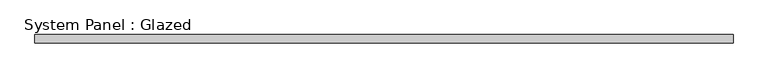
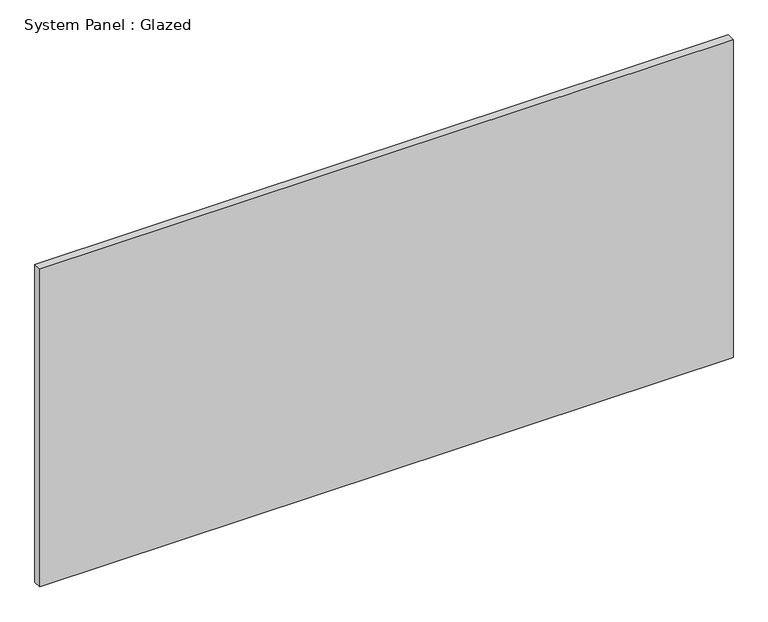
"""IFC4 building model written with IfcOpenShell, lengths in millimetres: plate geometry, System Panel : Glazed."""

from ifc_helpers import new_model, si_unit, origin, origin_with_axes, place, context, project, spatial, polyline, outline, extrude, source, transform, mapped, element, save


def system_panel_glazed_a1594aab(model_context):
    return source(origin(), model_context, "Body", "SweptSolid", [
        extrude(outline(polyline([(1031.1615744, 24.5), (-1031.1615744, 24.5), (-1031.1615744, 49.5), (1031.1615744, 49.5), (1031.1615744, 24.5)])), origin_with_axes(), (0.0, 0.0, 1.0), 1000.0),
    ])


if __name__ == "__main__":
    model = new_model("IFC4")
    model_context = context("Model", 3, world=origin())
    ifc_project = project(units=[si_unit("LENGTHUNIT", "METRE", prefix="MILLI")], contexts=[model_context])
    site = spatial("IfcSite", under=ifc_project)
    building = spatial("IfcBuilding", under=site)
    placement = place(None, origin())
    system_panel_glazed_shape = system_panel_glazed_a1594aab(model_context)
    element("IfcPlate", 1, ObjectType="System Panel : Glazed", at=placement, inside=building, context=model_context, shape_type="MappedRepresentation", body=[
        mapped(system_panel_glazed_shape, transform((0.0, 0.0, 0.0), x_axis=(1.0, 0.0, 0.0), y_axis=(0.0, 1.0, 0.0), z_axis=(0.0, 0.0, 1.0))),
    ])
    save(model, "model.ifc")
